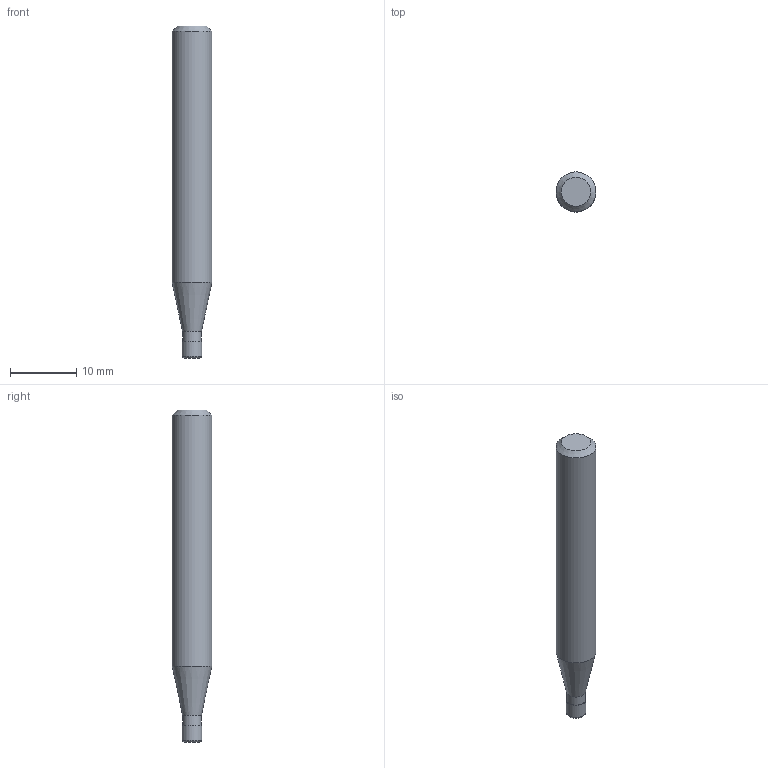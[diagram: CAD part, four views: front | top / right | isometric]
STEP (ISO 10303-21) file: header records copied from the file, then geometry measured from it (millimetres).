
FILE_DESCRIPTION((''),'2;1');
FILE_NAME('C:\Users\nsx150\AppData\Local\Temp\Mastercam 2021\3SYKECWX22\TEMP.step','2021-04-22T09:50:38',(''),(''),'STEP Write','Mastercam 2021 ... CNC Software, Inc.','');
FILE_SCHEMA(('AUTOMOTIVE_DESIGN'));
Length unit declared in the file: millimetre
Products named in the file (1): None
Bounding box: 6 x 6 x 50 mm (x, y, z)
Volume: 1231.4 mm3; surface area: 907.6 mm2
Topology: 2 solids, 2 shells, 10 faces, 14 edges, 8 vertices
Faces by surface type: plane 4, cylinder 3, cone 2, torus 1
Full cylindrical faces by diameter (mm): 2.85 x1, 3 x1, 6 x1
Entity records: 232 total; most frequent: DIRECTION 40, CARTESIAN_POINT 28, AXIS2_PLACEMENT_3D 20, ORIENTED_EDGE 16, EDGE_LOOP 16, STYLED_ITEM 13, ADVANCED_FACE 10, FACE_BOUND 10
